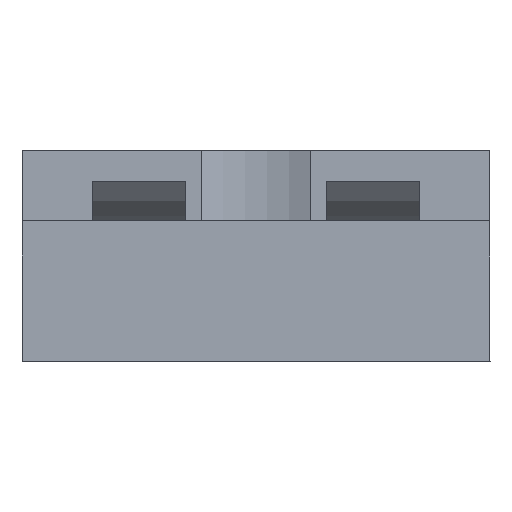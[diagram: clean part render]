
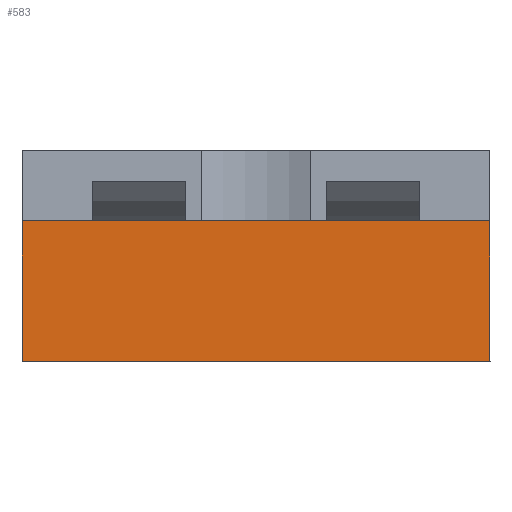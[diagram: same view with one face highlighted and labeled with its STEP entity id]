
A CAD part, left-side view. The second image highlights one B-rep face of the part: STEP entity #583.
In plain terms, the highlighted planar face has unit normal (-1, 0, 0).
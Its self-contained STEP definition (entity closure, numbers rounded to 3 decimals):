
#34=PLANE('',#642);
#60=FACE_OUTER_BOUND('',#88,.T.);
#88=EDGE_LOOP('',(#512,#513,#514,#515));
#168=LINE('',#955,#234);
#171=LINE('',#960,#237);
#172=LINE('',#962,#238);
#173=LINE('',#963,#239);
#234=VECTOR('',#783,10.);
#237=VECTOR('',#788,10.);
#238=VECTOR('',#789,10.);
#239=VECTOR('',#790,10.);
#296=VERTEX_POINT('',#953);
#297=VERTEX_POINT('',#954);
#298=VERTEX_POINT('',#959);
#299=VERTEX_POINT('',#961);
#374=EDGE_CURVE('',#296,#297,#168,.T.);
#377=EDGE_CURVE('',#298,#296,#171,.T.);
#378=EDGE_CURVE('',#299,#297,#172,.T.);
#379=EDGE_CURVE('',#298,#299,#173,.T.);
#512=ORIENTED_EDGE('',*,*,#377,.T.);
#513=ORIENTED_EDGE('',*,*,#374,.T.);
#514=ORIENTED_EDGE('',*,*,#378,.F.);
#515=ORIENTED_EDGE('',*,*,#379,.F.);
#583=ADVANCED_FACE('',(#60),#34,.T.);
#642=AXIS2_PLACEMENT_3D('',#958,#786,#787);
#783=DIRECTION('',(0.,-1.,0.));
#786=DIRECTION('center_axis',(-1.,0.,0.));
#787=DIRECTION('ref_axis',(0.,0.,-1.));
#788=DIRECTION('',(0.,0.,-1.));
#789=DIRECTION('',(0.,0.,-1.));
#790=DIRECTION('',(0.,-1.,0.));
#953=CARTESIAN_POINT('',(-154.,300.,-336.));
#954=CARTESIAN_POINT('',(-154.,280.,-336.));
#955=CARTESIAN_POINT('',(-154.,300.,-336.));
#958=CARTESIAN_POINT('Origin',(-154.,300.,-330.));
#959=CARTESIAN_POINT('',(-154.,300.,-330.));
#960=CARTESIAN_POINT('',(-154.,300.,-330.));
#961=CARTESIAN_POINT('',(-154.,280.,-330.));
#962=CARTESIAN_POINT('',(-154.,280.,-330.));
#963=CARTESIAN_POINT('',(-154.,300.,-330.));
